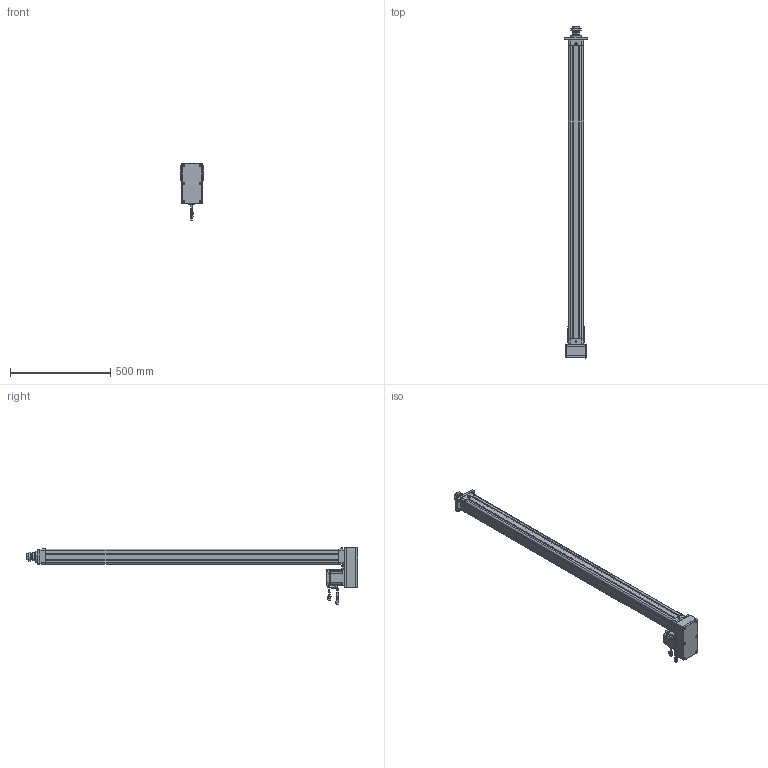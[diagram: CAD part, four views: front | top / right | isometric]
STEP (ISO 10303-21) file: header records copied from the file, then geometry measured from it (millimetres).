
FILE_DESCRIPTION((''),'2;1');
FILE_NAME('ASM0001_ASM','2020-04-15T',('ASUS20200'),(''),'CREO PARAMETRIC BY PTC INC, 2014190','CREO PARAMETRIC BY PTC INC, 2014190','');
FILE_SCHEMA(('CONFIG_CONTROL_DESIGN'));
Length unit declared in the file: millimetre
Products named in the file (31): HE63-D-P-001-X1; HE63-D-P-002-X1; HE63-D-P-003-X1; LGLM-M8-22; SLM-01; YZ-M6X1; JDB405030; HE63-P-010-X1-80N; _MHMF082L1A2; _CABLE_MOTOR_BOTTOM_05; _CABLE_MOTOR_TOP_05; _MOTOR_CONNECTOR_2; _CABLE_BRAKE_BOTTOM_05; _CABLE_BRAKE_TOP_05; _MHMF_CONNECTOR_9_PIN_A6; MHMF082L1A2M2_1_ASM; JX6X6X25; HE63-P-012-X1; HE63-P-013-X1; M6X60; JM-M8; LM-M8-15; LM-M8X1-25; HE63-D-P-005-X1; HE63-D-P-004-X1; HE63-D-P-008-X1; TD-6; M6X25; F-SE63FA; M8X16; ASM0001_ASM
Assembly tree (51 placements, depth 3):
  ASM0001_ASM
    HE63-D-P-001-X1
    HE63-D-P-002-X1
    HE63-D-P-003-X1
    LGLM-M8-22  x8
    SLM-01
    YZ-M6X1
    JDB405030
    HE63-P-010-X1-80N
    MHMF082L1A2M2_1_ASM
      _MHMF082L1A2
      _CABLE_MOTOR_BOTTOM_05
      _CABLE_MOTOR_TOP_05
      _MOTOR_CONNECTOR_2
      _CABLE_BRAKE_BOTTOM_05
      _CABLE_BRAKE_TOP_05
      _MHMF_CONNECTOR_9_PIN_A6
    JX6X6X25
    HE63-P-012-X1
    HE63-P-013-X1
    M6X60  x6
    JM-M8
    LM-M8-15
    LM-M8X1-25
    HE63-D-P-005-X1
    HE63-D-P-004-X1
    HE63-D-P-008-X1
    TD-6  x4
    M6X25  x4
    F-SE63FA
    M8X16  x4
Bounding box: 118 x 1657 x 284.15 mm (x, y, z)
Volume: 4598304 mm3; surface area: 1412831.3 mm2
Topology: 50 solids, 80 shells, 2791 faces, 6723 edges, 4184 vertices
Faces by surface type: plane 1199, cylinder 788, cone 609, torus 150, sphere 42, bspline 3
Entity records: 68787 total; most frequent: CARTESIAN_POINT 13044, DIRECTION 12235, ORIENTED_EDGE 10914, EDGE_CURVE 5511, AXIS2_PLACEMENT_3D 4572, VERTEX_POINT 3453, VECTOR 3091, LINE 3091
